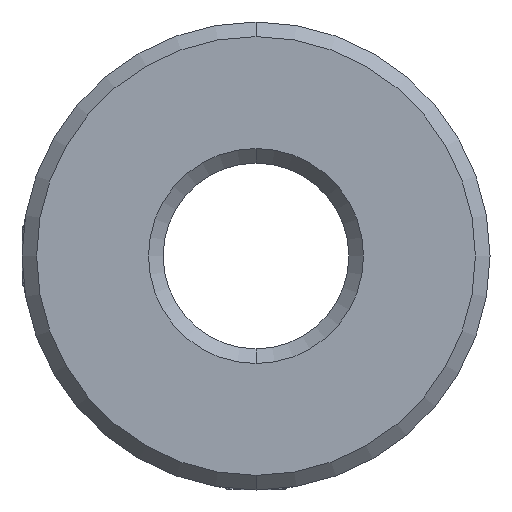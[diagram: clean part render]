
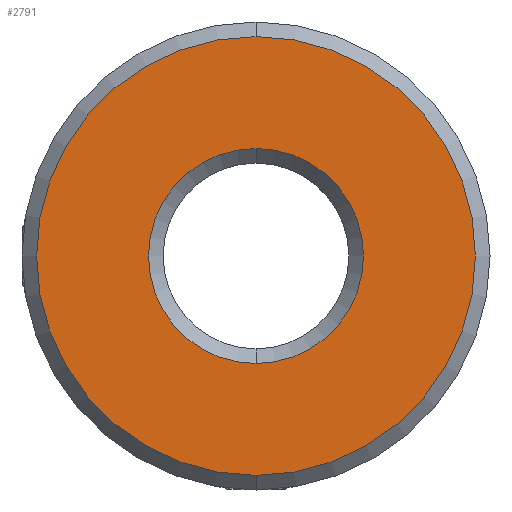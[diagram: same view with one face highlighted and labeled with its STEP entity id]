
A CAD part, front view. The second image highlights one B-rep face of the part: STEP entity #2791.
In plain terms, the highlighted planar face has unit normal (0, -1, 0).
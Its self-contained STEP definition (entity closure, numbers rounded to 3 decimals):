
#9 = EDGE_CURVE ( 'NONE', #680, #2387, #741, .T. ) ;
#27 = CIRCLE ( 'NONE', #1738, 3.675 ) ;
#136 = AXIS2_PLACEMENT_3D ( 'NONE', #2027, #3445, #1206 ) ;
#505 = FACE_OUTER_BOUND ( 'NONE', #2739, .T. ) ;
#518 = AXIS2_PLACEMENT_3D ( 'NONE', #3096, #558, #588 ) ;
#558 = DIRECTION ( 'NONE',  ( 0., -1., 0. ) ) ;
#588 = DIRECTION ( 'NONE',  ( 0., 0., 1. ) ) ;
#613 = CARTESIAN_POINT ( 'NONE',  ( -10.188, -12.277, 0.046 ) ) ;
#680 = VERTEX_POINT ( 'NONE', #2308 ) ;
#706 = EDGE_CURVE ( 'NONE', #2466, #2932, #1725, .T. ) ;
#741 = CIRCLE ( 'NONE', #518, 7.5 ) ;
#753 = CARTESIAN_POINT ( 'NONE',  ( -10.188, -12.277, 3.721 ) ) ;
#857 = DIRECTION ( 'NONE',  ( 0., -1., 0. ) ) ;
#963 = EDGE_CURVE ( 'NONE', #2387, #680, #2798, .T. ) ;
#991 = AXIS2_PLACEMENT_3D ( 'NONE', #1709, #857, #1974 ) ;
#1206 = DIRECTION ( 'NONE',  ( 0., 0., 1. ) ) ;
#1372 = EDGE_CURVE ( 'NONE', #2932, #2466, #27, .T. ) ;
#1373 = ORIENTED_EDGE ( 'NONE', *, *, #706, .T. ) ;
#1377 = DIRECTION ( 'NONE',  ( 0., 1., 0. ) ) ;
#1709 = CARTESIAN_POINT ( 'NONE',  ( -10.188, -12.277, 0.046 ) ) ;
#1725 = CIRCLE ( 'NONE', #136, 3.675 ) ;
#1726 = DIRECTION ( 'NONE',  ( 0., 0., 1. ) ) ;
#1738 = AXIS2_PLACEMENT_3D ( 'NONE', #613, #1377, #1726 ) ;
#1871 = CARTESIAN_POINT ( 'NONE',  ( -10.188, -12.277, -7.454 ) ) ;
#1903 = FACE_BOUND ( 'NONE', #2906, .T. ) ;
#1974 = DIRECTION ( 'NONE',  ( 0., 0., 1. ) ) ;
#2027 = CARTESIAN_POINT ( 'NONE',  ( -10.188, -12.277, 0.046 ) ) ;
#2238 = ORIENTED_EDGE ( 'NONE', *, *, #1372, .T. ) ;
#2308 = CARTESIAN_POINT ( 'NONE',  ( -10.188, -12.277, 7.546 ) ) ;
#2387 = VERTEX_POINT ( 'NONE', #1871 ) ;
#2440 = ORIENTED_EDGE ( 'NONE', *, *, #9, .T. ) ;
#2456 = PLANE ( 'NONE',  #2470 ) ;
#2466 = VERTEX_POINT ( 'NONE', #2633 ) ;
#2470 = AXIS2_PLACEMENT_3D ( 'NONE', #3586, #3320, #2892 ) ;
#2633 = CARTESIAN_POINT ( 'NONE',  ( -10.188, -12.277, -3.629 ) ) ;
#2739 = EDGE_LOOP ( 'NONE', ( #2440, #3134 ) ) ;
#2791 = ADVANCED_FACE ( 'NONE', ( #505, #1903 ), #2456, .F. ) ;
#2798 = CIRCLE ( 'NONE', #991, 7.5 ) ;
#2892 = DIRECTION ( 'NONE',  ( 0., 0., 1. ) ) ;
#2906 = EDGE_LOOP ( 'NONE', ( #1373, #2238 ) ) ;
#2932 = VERTEX_POINT ( 'NONE', #753 ) ;
#3096 = CARTESIAN_POINT ( 'NONE',  ( -10.188, -12.277, 0.046 ) ) ;
#3134 = ORIENTED_EDGE ( 'NONE', *, *, #963, .T. ) ;
#3320 = DIRECTION ( 'NONE',  ( 0., 1., 0. ) ) ;
#3445 = DIRECTION ( 'NONE',  ( 0., 1., 0. ) ) ;
#3586 = CARTESIAN_POINT ( 'NONE',  ( -10.188, -12.277, 0.046 ) ) ;
